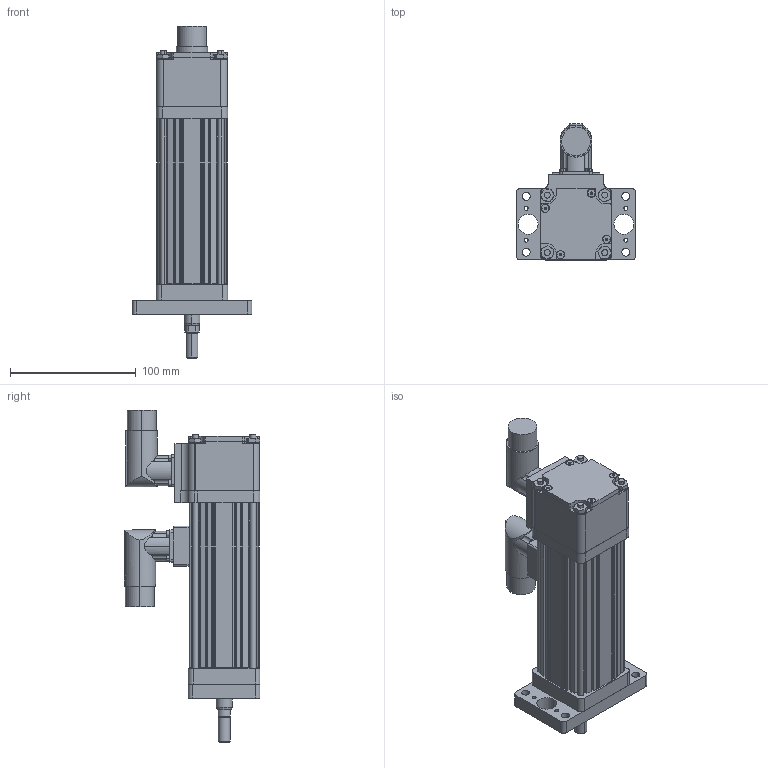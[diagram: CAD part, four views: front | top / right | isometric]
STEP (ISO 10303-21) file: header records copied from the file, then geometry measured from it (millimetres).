
FILE_DESCRIPTION (( 'STEP AP203' ), '1' );
FILE_NAME ('GSM20-3 inch Front Flange Mount, Euro Conn, A Rod.step', '2008-05-29T11:28:14', ( 'SaharaKiran' ), ( 'I2T2' ), 'SwSTEP 2.0', 'SolidWorks 2008', '' );
FILE_SCHEMA (( 'CONFIG_CONTROL_DESIGN' ));
Length unit declared in the file: inch
Products named in the file (19): GSM20-3 inch Front Flange Mount, Euro Conn, A Rod; 31335; END CAP_31199; 31603; MAIN ROD_A-MAIN ROD-3 inch; 12709; 12710; 19738; 12692; CYLINDER_31367-3 inch; CASE_31193-3 inch; END CAP_FRONT FLANGE-31199-EURO; 18391; 19819; 12367; 31527_90585A200; 20494; TieRod_24874-3"; FRONT FLANGE_12868
Assembly tree (38 placements, depth 3):
  GSM20-3 inch Front Flange Mount, Euro Conn, A Rod
    12710  x4
    12692  x2
    12709  x4
    TieRod_24874-3"  x4
    12367  x4
    18391
    CASE_31193-3 inch
    MAIN ROD_A-MAIN ROD-3 inch
    END CAP_FRONT FLANGE-31199-EURO
      END CAP_31199
      31527_90585A200  x4
      12367  x4
      31335
      20494
    19738
    31603
    19819
    FRONT FLANGE_12868
    CYLINDER_31367-3 inch
Bounding box: 95.25 x 108.01 x 264.08 mm (x, y, z)
Volume: 460998.3 mm3; surface area: 205665.8 mm2
Topology: 37 solids, 37 shells, 1444 faces, 3381 edges, 2068 vertices
Faces by surface type: cylinder 658, plane 420, cone 310, torus 56
Entity records: 32667 total; most frequent: CARTESIAN_POINT 6883, DIRECTION 5218, ORIENTED_EDGE 4566, EDGE_CURVE 2283, AXIS2_PLACEMENT_3D 2085, VERTEX_POINT 1461, EDGE_LOOP 1160, CIRCLE 1095
